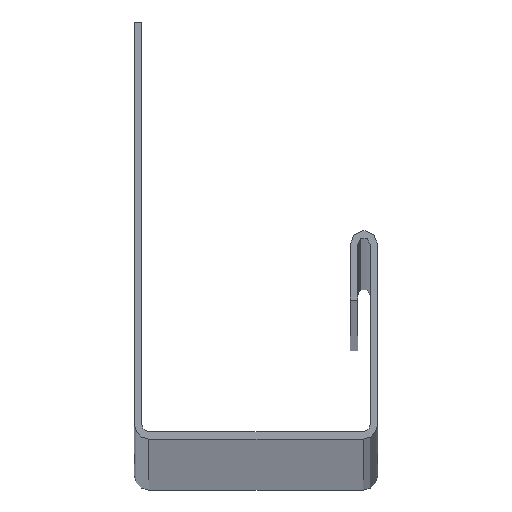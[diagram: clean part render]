
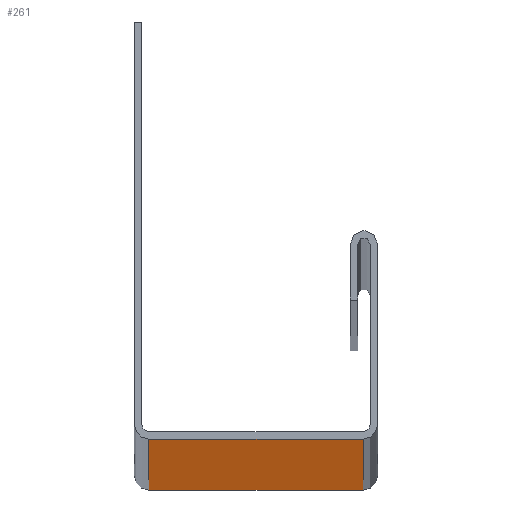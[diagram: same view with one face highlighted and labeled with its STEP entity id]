
A CAD part, top view. The second image highlights one B-rep face of the part: STEP entity #261.
In plain terms, the highlighted planar face has unit normal (0, -1, 0).
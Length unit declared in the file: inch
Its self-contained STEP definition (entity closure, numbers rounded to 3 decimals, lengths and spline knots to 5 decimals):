
#23 = VERTEX_POINT ( 'NONE', #567 ) ;
#25 = EDGE_LOOP ( 'NONE', ( #508, #464, #423, #394 ) ) ;
#93 = CARTESIAN_POINT ( 'NONE',  ( 0.03937, 0., 78.74016 ) ) ;
#98 = EDGE_CURVE ( 'NONE', #583, #23, #708, .T. ) ;
#103 = VECTOR ( 'NONE', #538, 39.37008 ) ;
#199 = EDGE_CURVE ( 'NONE', #583, #498, #556, .T. ) ;
#232 = LINE ( 'NONE', #292, #103 ) ;
#261 = ADVANCED_FACE ( 'NONE', ( #585 ), #403, .F. ) ;
#263 = AXIS2_PLACEMENT_3D ( 'NONE', #290, #342, #488 ) ;
#277 = VECTOR ( 'NONE', #506, 39.37008 ) ;
#290 = CARTESIAN_POINT ( 'NONE',  ( 0.03937, 0., 78.74016 ) ) ;
#292 = CARTESIAN_POINT ( 'NONE',  ( 0.61688, 0., 78.74016 ) ) ;
#315 = CARTESIAN_POINT ( 'NONE',  ( 0.03937, 0., 78.74016 ) ) ;
#342 = DIRECTION ( 'NONE',  ( 0., 1., 0. ) ) ;
#394 = ORIENTED_EDGE ( 'NONE', *, *, #199, .T. ) ;
#403 = PLANE ( 'NONE',  #263 ) ;
#407 = DIRECTION ( 'NONE',  ( 1., 0., 0. ) ) ;
#418 = VECTOR ( 'NONE', #483, 39.37008 ) ;
#423 = ORIENTED_EDGE ( 'NONE', *, *, #98, .F. ) ;
#434 = LINE ( 'NONE', #588, #418 ) ;
#464 = ORIENTED_EDGE ( 'NONE', *, *, #623, .F. ) ;
#483 = DIRECTION ( 'NONE',  ( 1., 0., 0. ) ) ;
#487 = CARTESIAN_POINT ( 'NONE',  ( 0.61688, 0., 0. ) ) ;
#488 = DIRECTION ( 'NONE',  ( 0., 0., 1. ) ) ;
#498 = VERTEX_POINT ( 'NONE', #626 ) ;
#506 = DIRECTION ( 'NONE',  ( 0., 0., -1. ) ) ;
#508 = ORIENTED_EDGE ( 'NONE', *, *, #717, .T. ) ;
#538 = DIRECTION ( 'NONE',  ( 0., 0., -1. ) ) ;
#556 = LINE ( 'NONE', #93, #277 ) ;
#567 = CARTESIAN_POINT ( 'NONE',  ( 0.61688, 0., 78.74016 ) ) ;
#583 = VERTEX_POINT ( 'NONE', #648 ) ;
#585 = FACE_OUTER_BOUND ( 'NONE', #25, .T. ) ;
#588 = CARTESIAN_POINT ( 'NONE',  ( 0.03937, 0., 0. ) ) ;
#623 = EDGE_CURVE ( 'NONE', #23, #697, #232, .T. ) ;
#626 = CARTESIAN_POINT ( 'NONE',  ( 0.03937, 0., 0. ) ) ;
#648 = CARTESIAN_POINT ( 'NONE',  ( 0.03937, 0., 78.74016 ) ) ;
#692 = VECTOR ( 'NONE', #407, 39.37008 ) ;
#697 = VERTEX_POINT ( 'NONE', #487 ) ;
#708 = LINE ( 'NONE', #315, #692 ) ;
#717 = EDGE_CURVE ( 'NONE', #498, #697, #434, .T. ) ;
